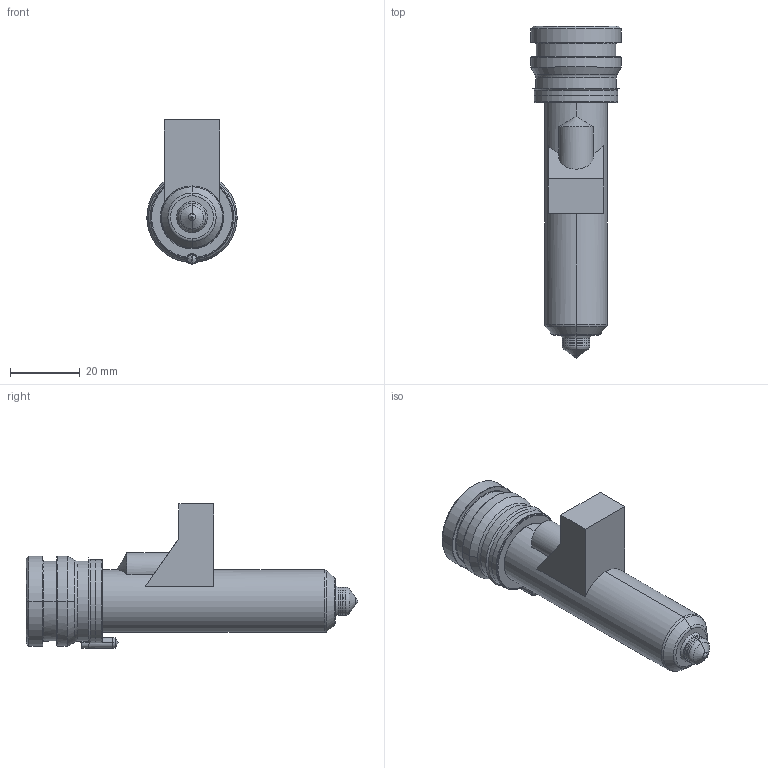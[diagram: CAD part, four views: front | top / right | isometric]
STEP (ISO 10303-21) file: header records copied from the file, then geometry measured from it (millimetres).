
FILE_DESCRIPTION((''),'2;1');
FILE_NAME('MPN-08-24-TX8-076-M','2026-02-05T13:25:52',('UPTIO'),('Thermoplay S.p.A.'),'CREO PARAMETRIC BY PTC INC, 2023494','CREO PARAMETRIC BY PTC INC, 2023494','');
FILE_SCHEMA(('CONFIG_CONTROL_DESIGN','SHAPE_APPEARANCE_LAYERS_GROUPS'));
Length unit declared in the file: millimetre
Products named in the file (1): MPN-08-24-TX8-076-M
Bounding box: 26 x 95.5 x 41.5 mm (x, y, z)
Volume: 19469.9 mm3; surface area: 25066.7 mm2
Topology: 2 solids, 3 shells, 532 faces, 1392 edges, 855 vertices
Faces by surface type: cylinder 174, plane 144, bspline 77, torus 62, cone 58, sphere 11, extrusion 6
Entity records: 28530 total; most frequent: CARTESIAN_POINT 12906, ORIENTED_EDGE 2762, DIRECTION 2491, EDGE_CURVE 1381, AXIS2_PLACEMENT_3D 974, VERTEX_POINT 855, EDGE_LOOP 562, VECTOR 543
